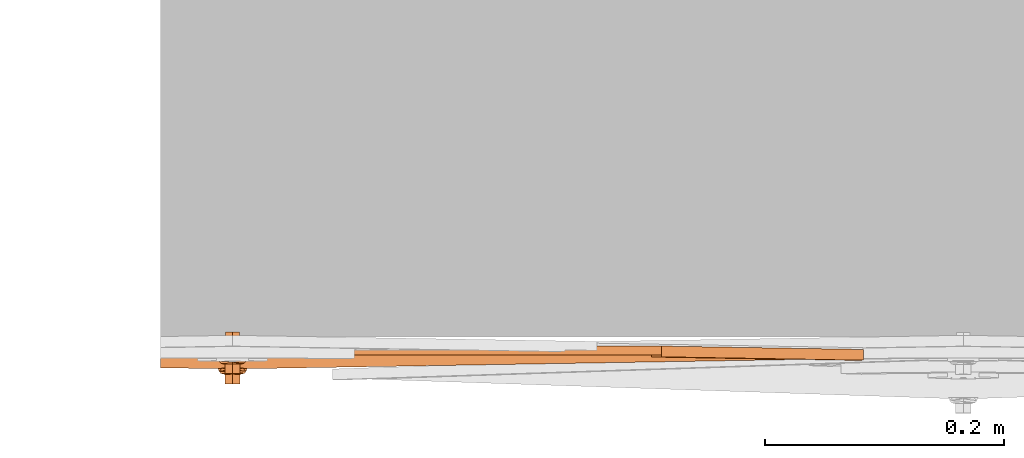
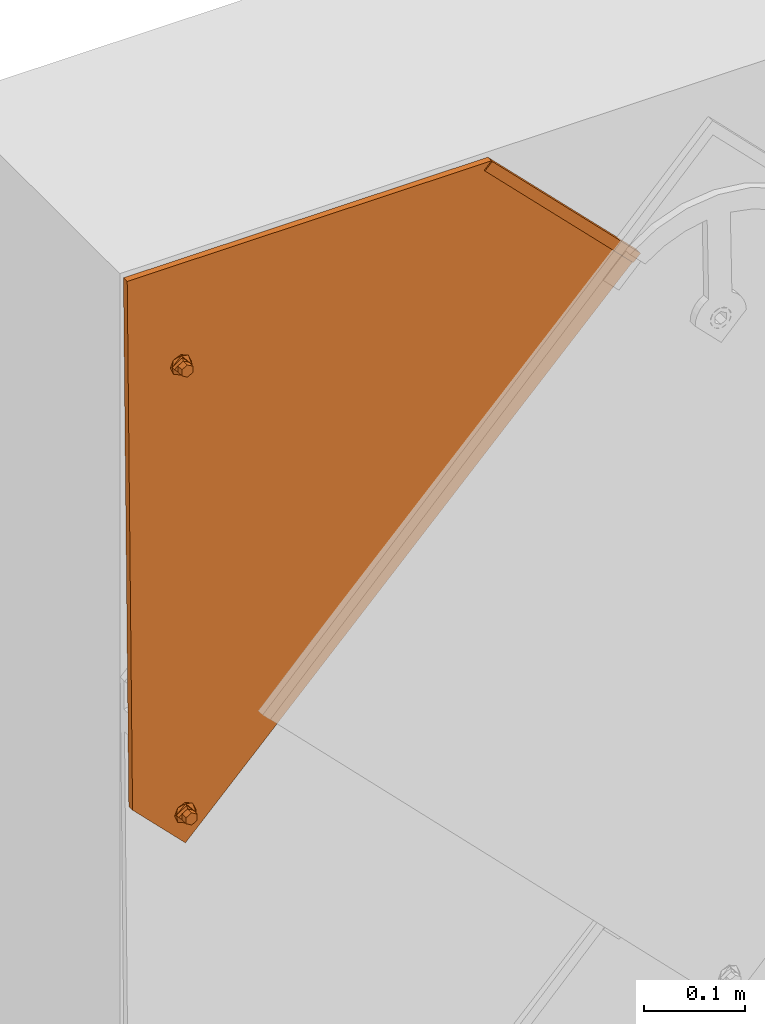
# One storey, part 127 of 133: 1 proxy.
"""IFC2X3 building model written with IfcOpenShell, lengths in millimetres."""

from ifc_helpers import new_model, entity, si_unit, converted_unit, derived_unit, direction, frame, origin, place, context, subcontext, project, spatial, faceted_brep, source, transform, mapped, material, material_list, type_object, type_shapes, element, save


model = new_model("IFC2X3")

# Units and contexts
model_context = context("Model", 3, precision=0.01, world=origin(), true_north=direction((6.12303176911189e-17, 1.0)))
body_context = subcontext(model_context, "Body", "Model", "MODEL_VIEW")
ifc_project = project(units=[si_unit("LENGTHUNIT", "METRE", prefix="MILLI"), si_unit("AREAUNIT", "SQUARE_METRE"), si_unit("VOLUMEUNIT", "CUBIC_METRE"), converted_unit("PLANEANGLEUNIT", "DEGREE", entity("IfcRatioMeasure", 0.0174532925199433), si_unit("PLANEANGLEUNIT", "RADIAN"), dimensions=[0, 0, 0, 0, 0, 0, 0]), si_unit("MASSUNIT", "GRAM", prefix="KILO"), derived_unit("MASSDENSITYUNIT", [(si_unit("MASSUNIT", "GRAM", prefix="KILO"), 1), (si_unit("LENGTHUNIT", "METRE"), -3)]), si_unit("TIMEUNIT", "SECOND"), si_unit("FREQUENCYUNIT", "HERTZ"), si_unit("THERMODYNAMICTEMPERATUREUNIT", "DEGREE_CELSIUS"), derived_unit("THERMALTRANSMITTANCEUNIT", [(si_unit("MASSUNIT", "GRAM", prefix="KILO"), 1), (si_unit("THERMODYNAMICTEMPERATUREUNIT", "KELVIN"), -1), (si_unit("TIMEUNIT", "SECOND"), -3)]), derived_unit("VOLUMETRICFLOWRATEUNIT", [(si_unit("LENGTHUNIT", "METRE"), 3), (si_unit("TIMEUNIT", "SECOND"), -1)]), si_unit("ELECTRICCURRENTUNIT", "AMPERE"), si_unit("ELECTRICVOLTAGEUNIT", "VOLT"), si_unit("POWERUNIT", "WATT"), si_unit("FORCEUNIT", "NEWTON", prefix="KILO"), si_unit("ILLUMINANCEUNIT", "LUX"), si_unit("LUMINOUSFLUXUNIT", "LUMEN"), si_unit("LUMINOUSINTENSITYUNIT", "CANDELA"), derived_unit("USERDEFINED", [(si_unit("MASSUNIT", "GRAM", prefix="KILO"), -1), (si_unit("LENGTHUNIT", "METRE"), -2), (si_unit("TIMEUNIT", "SECOND"), 3), (si_unit("LUMINOUSFLUXUNIT", "LUMEN"), 1)]), derived_unit("LINEARVELOCITYUNIT", [(si_unit("LENGTHUNIT", "METRE"), 1), (si_unit("TIMEUNIT", "SECOND"), -1)]), si_unit("PRESSUREUNIT", "PASCAL"), derived_unit("USERDEFINED", [(si_unit("LENGTHUNIT", "METRE"), -2), (si_unit("MASSUNIT", "GRAM", prefix="KILO"), 1), (si_unit("TIMEUNIT", "SECOND"), -2)])], contexts=[model_context])

# Site, building, storey
site_placement = place(None, origin())
site = spatial("IfcSite", under=ifc_project, at=site_placement, Name="Default", CompositionType="ELEMENT")
building_placement = place(site_placement, origin())
building = spatial("IfcBuilding", under=site, at=building_placement, CompositionType="ELEMENT")
storey_placement = place(building_placement, origin())
storey = spatial("IfcBuildingStorey", under=building, at=storey_placement, Name="Level 1", CompositionType="ELEMENT", Elevation=0.0)

# Proxy
ifc_material_1 = material(Name="Rubber - Sunstyle - Black")
ifc_material_2 = material(Name="Glass - Sunstyle - Tainted Terracotta")
ifc_material_list_1 = material_list([ifc_material_1, ifc_material_2])
ifc_material_list_2 = material_list([ifc_material_1, ifc_material_2])
building_element_proxy_type = type_object("IfcBuildingElementProxyType", Name="Corner Top Big Left - Terracotta", PredefinedType="NOTDEFINED", material=ifc_material_list_2)
shared_shape = source(origin(), body_context, "Body", "Brep", [
    faceted_brep([(0.0, -33.9825851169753, -4.47296585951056), (-5.7742028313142, -37.3158552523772, -4.41714187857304), (-5.77420283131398, -36.9475461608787, 17.5747274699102), (0.0, -33.6142760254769, 17.5189034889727), (-5.77420283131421, -43.9823955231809, -4.30549391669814), (-5.77420283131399, -43.6140864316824, 17.6863754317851), (0.0, -47.3156656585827, -4.24966993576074), (0.0, -46.9473565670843, 17.7421994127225), (5.77420283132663, -43.9823955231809, -4.30549391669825), (5.77420283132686, -43.6140864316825, 17.686375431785), (5.77420283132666, -37.3158552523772, -4.41714187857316), (5.77420283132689, -36.9475461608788, 17.5747274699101), (-8.60370416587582, -48.8833141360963, 17.774621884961), (0.0, -52.4465854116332, 17.8342978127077), (-12.1674751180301, -40.2808162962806, 17.6305514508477), (-8.60370416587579, -31.6783184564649, 17.4864810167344), (0.0, -28.115047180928, 17.4268050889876), (8.60370416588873, -31.6783184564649, 17.4864810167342), (12.167475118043, -40.2808162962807, 17.6305514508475), (8.60370416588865, -48.8833141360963, 17.7746218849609), (-11.3242446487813, -37.9857391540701, 19.9433933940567), (-9.75647455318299, -40.2098014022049, 21.8708760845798), (0.0, -32.8967261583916, 22.5035764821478), (0.0, -31.6562285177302, 21.9232298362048), (0.0, -29.4986776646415, 20.9138547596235), (0.0, -51.8905414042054, 19.1093557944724), (0.0, -50.9469648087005, 21.273060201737), (0.0, -47.4975891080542, 22.748104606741), (0.0, -28.6280832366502, 18.719767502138), (-6.32324569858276, -43.8473733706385, 22.6869725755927), (-6.32324569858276, -36.5469418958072, 22.5647085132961), (11.3242446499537, -42.4971593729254, 20.0189484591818), (9.84888015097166, -41.2842078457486, 21.7920079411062), (6.32324569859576, -36.5469418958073, 22.564708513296), (6.32324569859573, -43.8473733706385, 22.6869725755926), (-6.32324569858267, -43.7133449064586, 30.6898607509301), (0.0, -47.3635606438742, 30.7509927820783), (0.0, -40.063129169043, 30.6287287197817), (-6.32324569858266, -36.4129134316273, 30.5675966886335), (6.32324569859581, -43.7133449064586, 30.68986075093), (6.32324569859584, -36.4129134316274, 30.5675966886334), (0.0, -32.7626976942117, 30.5064646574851), (0.0, -40.649125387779, -4.36131789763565)], [[[0, 1, 2, 3]], [[1, 4, 5, 2]], [[4, 6, 7, 5]], [[6, 8, 9, 7]], [[8, 10, 11, 9]], [[10, 0, 3, 11]], [[12, 7, 13]], [[7, 12, 5]], [[14, 5, 12]], [[5, 14, 2]], [[15, 2, 14]], [[3, 2, 15]], [[15, 16, 3]], [[16, 17, 3]], [[11, 3, 17]], [[11, 17, 18]], [[9, 11, 18]], [[18, 19, 9]], [[7, 9, 19]], [[19, 13, 7]], [[20, 14, 12]], [[21, 22, 23, 24]], [[24, 20, 21]], [[25, 20, 12]], [[26, 27, 21]], [[15, 14, 20]], [[12, 13, 25]], [[20, 28, 15]], [[28, 20, 24]], [[21, 27, 29]], [[21, 29, 30]], [[26, 21, 20]], [[20, 25, 26]], [[15, 28, 16]], [[21, 30, 22]], [[31, 18, 17]], [[28, 31, 17]], [[32, 27, 26]], [[26, 31, 32]], [[26, 25, 31]], [[25, 19, 31]], [[17, 16, 28]], [[31, 19, 18]], [[24, 31, 28]], [[33, 34, 32]], [[23, 22, 33]], [[24, 32, 31]], [[27, 32, 34]], [[32, 23, 33]], [[19, 25, 13]], [[32, 24, 23]], [[35, 36, 37]], [[37, 38, 35]], [[36, 39, 37]], [[40, 37, 39]], [[37, 40, 41]], [[37, 41, 38]], [[42, 6, 4]], [[4, 1, 42]], [[1, 0, 42]], [[42, 8, 6]], [[0, 10, 42]], [[8, 42, 10]], [[22, 30, 38, 41]], [[30, 29, 35, 38]], [[29, 27, 36, 35]], [[27, 34, 39, 36]], [[34, 33, 40, 39]], [[33, 22, 41, 40]]]),
    faceted_brep([(0.0, -572.517457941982, 4.0063690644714), (-5.77420283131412, -575.850728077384, 4.06219304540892), (-5.77420283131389, -575.482418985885, 26.0540623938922), (0.0, -572.149148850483, 25.9982384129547), (-5.77420283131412, -582.517268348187, 4.17384100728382), (-5.7742028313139, -582.148959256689, 26.1657103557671), (0.0, -585.850538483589, 4.22966498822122), (0.0, -585.482229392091, 26.2215343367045), (5.77420283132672, -582.517268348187, 4.17384100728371), (5.77420283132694, -582.148959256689, 26.165710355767), (5.77420283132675, -575.850728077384, 4.0621930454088), (5.77420283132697, -575.482418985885, 26.0540623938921), (-8.60370416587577, -587.418186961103, 26.253956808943), (0.0, -590.98145823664, 26.3136327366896), (-12.1674751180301, -578.815689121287, 26.1098863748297), (-8.60370416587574, -570.213191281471, 25.9658159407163), (0.0, -566.649920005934, 25.9061400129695), (8.60370416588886, -570.213191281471, 25.9658159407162), (12.1674751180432, -578.815689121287, 26.1098863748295), (8.60370416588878, -587.418186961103, 26.2539568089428), (-11.3242446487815, -576.520611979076, 28.4227283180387), (-9.75647455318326, -578.744674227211, 30.3502110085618), (0.0, -571.431598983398, 30.9829114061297), (0.0, -570.191101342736, 30.4025647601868), (0.0, -568.033550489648, 29.3931896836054), (0.0, -590.425414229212, 27.5886907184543), (0.0, -589.481837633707, 29.752395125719), (0.0, -586.032461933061, 31.227439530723), (0.0, -567.162956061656, 27.1991024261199), (-6.32324569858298, -582.382246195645, 31.1663074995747), (-6.32324569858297, -575.081814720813, 31.0440434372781), (11.3242446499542, -581.032032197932, 28.4982833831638), (9.8488801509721, -579.819080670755, 30.2713428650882), (6.32324569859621, -575.081814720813, 31.044043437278), (6.32324569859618, -582.382246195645, 31.1663074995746), (-6.32324569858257, -582.248217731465, 39.1691956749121), (0.0, -585.898433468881, 39.2303277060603), (0.0, -578.598001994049, 39.1080636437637), (-6.32324569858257, -574.947786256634, 39.0469316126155), (6.32324569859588, -582.248217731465, 39.1691956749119), (6.32324569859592, -574.947786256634, 39.0469316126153), (0.0, -571.297570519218, 38.9857995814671), (0.0, -579.183998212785, 4.1180170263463)], [[[0, 1, 2, 3]], [[1, 4, 5, 2]], [[4, 6, 7, 5]], [[6, 8, 9, 7]], [[8, 10, 11, 9]], [[10, 0, 3, 11]], [[12, 7, 13]], [[7, 12, 5]], [[14, 5, 12]], [[5, 14, 2]], [[15, 2, 14]], [[3, 2, 15]], [[15, 16, 3]], [[16, 17, 3]], [[11, 3, 17]], [[11, 17, 18]], [[9, 11, 18]], [[18, 19, 9]], [[7, 9, 19]], [[19, 13, 7]], [[20, 14, 12]], [[21, 22, 23, 24]], [[24, 20, 21]], [[25, 20, 12]], [[26, 27, 21]], [[15, 14, 20]], [[12, 13, 25]], [[20, 28, 15]], [[28, 20, 24]], [[21, 27, 29]], [[21, 29, 30]], [[26, 21, 20]], [[20, 25, 26]], [[15, 28, 16]], [[21, 30, 22]], [[31, 18, 17]], [[28, 31, 17]], [[32, 27, 26]], [[26, 31, 32]], [[26, 25, 31]], [[25, 19, 31]], [[17, 16, 28]], [[31, 19, 18]], [[24, 31, 28]], [[33, 34, 32]], [[23, 22, 33]], [[24, 32, 31]], [[27, 32, 34]], [[32, 23, 33]], [[19, 25, 13]], [[32, 24, 23]], [[35, 36, 37]], [[37, 38, 35]], [[36, 39, 37]], [[40, 37, 39]], [[37, 40, 41]], [[37, 41, 38]], [[42, 6, 4]], [[4, 1, 42]], [[1, 0, 42]], [[42, 8, 6]], [[0, 10, 42]], [[8, 42, 10]], [[22, 30, 38, 41]], [[30, 29, 35, 38]], [[29, 27, 36, 35]], [[27, 34, 39, 36]], [[34, 33, 40, 39]], [[33, 22, 41, 40]]]),
    faceted_brep([(518.469870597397, -96.888376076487, 17.926263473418), (526.954557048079, -88.4036896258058, 17.7841660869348), (526.954557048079, -88.3785718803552, 19.2839557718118), (518.469870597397, -96.8632583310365, 19.426053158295), (349.749078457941, 71.7851066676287, 15.1014023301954), (358.233764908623, 80.2697931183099, 14.9593049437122), (358.233764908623, 80.2949108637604, 16.4590946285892), (349.749078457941, 71.8102244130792, 16.6011920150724)], [[[0, 1, 2, 3]], [[1, 0, 4, 5]], [[2, 1, 5, 6]], [[3, 2, 6, 7]], [[0, 3, 7, 4]], [[4, 7, 6, 5]]]),
    faceted_brep([(358.233764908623, 80.2697931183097, 14.9593049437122), (6.92820323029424, -35.9783347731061, 16.9061718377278), (7.72740661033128, -37.9075118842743, 16.9384807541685), (5.6568542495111, -34.321712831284, 16.8784275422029), (8.0, -39.9777739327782, 16.9731524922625), (7.72740661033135, -42.0480359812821, 17.0078242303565), (6.92820323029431, -43.9772130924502, 17.0401331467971), (526.954557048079, -88.4036896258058, 17.7841660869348), (-60.1037538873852, 80.269793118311, 14.9593049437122), (4.0, -33.0505421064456, 16.8571385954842), (2.07055236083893, -32.2514507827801, 16.8437558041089), (0.0, -31.9788956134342, 16.8391911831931), (-2.07055236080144, -32.2514507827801, 16.8437558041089), (-4.0, -33.0505421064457, 16.8571385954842), (-5.6568542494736, -34.321712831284, 16.8784275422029), (-6.92820323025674, -35.9783347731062, 16.9061718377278), (-7.72740661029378, -37.9075118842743, 16.9384807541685), (-8.0, -39.9777739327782, 16.9731524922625), (-7.72740661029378, -42.0480359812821, 17.0078242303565), (-60.1037538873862, -555.122942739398, 25.6005522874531), (-6.92820323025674, -43.9772130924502, 17.0401331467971), (-5.6568542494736, -45.6338350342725, 17.067877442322), (-4.0, -46.9050057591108, 17.0891663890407), (-2.07055236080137, -47.7040970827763, 17.102549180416), (0.0, -47.9766522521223, 17.1071138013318), (2.07055236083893, -47.7040970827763, 17.102549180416), (2.00505600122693, -570.990105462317, 25.8662877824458), (-0.0654963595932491, -570.717550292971, 25.8617231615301), (-2.13604872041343, -570.990105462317, 25.8662877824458), (-4.06549635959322, -571.789196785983, 25.8796705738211), (-5.7223506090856, -573.060367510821, 25.9009595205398), (-6.99369958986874, -574.716989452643, 25.9287038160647), (-7.79290296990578, -576.646166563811, 25.9610127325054), (-8.06549635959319, -578.716428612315, 25.9956844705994), (-7.79290296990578, -580.786690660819, 26.0303562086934), (-6.99369958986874, -582.715867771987, 26.062665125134), (0.00032251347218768, -615.210165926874, 26.6068637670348), (7.66191025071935, -580.786690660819, 26.0303562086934), (6.86270687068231, -582.715867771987, 26.062665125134), (5.59135788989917, -584.37248971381, 26.0904094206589), (3.93450364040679, -585.643660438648, 26.1116983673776), (2.005056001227, -586.442751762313, 26.1250811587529), (-0.0654963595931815, -586.715306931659, 26.1296457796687), (-2.13604872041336, -586.442751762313, 26.1250811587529), (-4.06549635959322, -585.643660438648, 26.1116983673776), (-5.7223506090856, -584.37248971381, 26.0904094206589), (3.93450364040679, -571.789196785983, 25.8796705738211), (4.0, -46.9050057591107, 17.0891663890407), (5.59135788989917, -573.060367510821, 25.9009595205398), (5.65685424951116, -45.6338350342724, 17.067877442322), (6.86270687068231, -574.716989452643, 25.9287038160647), (7.66191025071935, -576.646166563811, 25.9610127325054), (7.93450364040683, -578.716428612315, 25.9956844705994), (-60.1037538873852, 80.1442043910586, 7.46035651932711), (-6.92820323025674, -36.1039235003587, 9.40722341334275), (-7.72740661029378, -38.0331006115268, 9.4395323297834), (-5.6568542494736, -34.4473015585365, 9.37947911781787), (-8.0, -40.1033626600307, 9.4742040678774), (-7.72740661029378, -42.1736247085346, 9.5088758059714), (-60.1037538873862, -555.248531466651, 18.101603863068), (-4.0, -33.1761308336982, 9.35819017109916), (-2.07055236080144, -32.3770395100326, 9.34480737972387), (0.0, -32.1044843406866, 9.34024275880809), (2.07055236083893, -32.3770395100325, 9.34480737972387), (4.0, -33.1761308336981, 9.35819017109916), (5.6568542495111, -34.4473015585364, 9.37947911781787), (358.233764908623, 80.1442043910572, 7.46035651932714), (6.92820323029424, -36.1039235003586, 9.40722341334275), (7.72740661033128, -38.0331006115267, 9.4395323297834), (8.0, -40.1033626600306, 9.4742040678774), (7.72740661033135, -42.1736247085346, 9.5088758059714), (6.92820323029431, -44.1028018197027, 9.54118472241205), (526.954557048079, -88.5292783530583, 10.2852176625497), (5.65685424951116, -45.7594237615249, 9.56892901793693), (5.59135788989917, -573.185956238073, 18.4020110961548), (6.86270687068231, -574.842578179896, 18.4297553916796), (7.66191025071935, -576.771755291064, 18.4620643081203), (7.93450364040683, -578.842017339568, 18.4967360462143), (7.66191025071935, -580.912279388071, 18.5314077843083), (0.00032251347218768, -615.335754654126, 19.1079153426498), (-6.99369958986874, -582.84145649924, 18.563716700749), (-5.7223506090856, -584.498078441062, 18.5914609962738), (-4.06549635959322, -585.7692491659, 18.6127499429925), (-2.13604872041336, -586.568340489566, 18.6261327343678), (-0.0654963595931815, -586.840895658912, 18.6306973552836), (2.005056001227, -586.568340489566, 18.6261327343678), (3.93450364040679, -585.7692491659, 18.6127499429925), (5.59135788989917, -584.498078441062, 18.5914609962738), (6.86270687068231, -582.84145649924, 18.563716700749), (4.0, -47.0305944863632, 9.59021796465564), (3.93450364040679, -571.914785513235, 18.3807221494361), (2.07055236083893, -47.8296858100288, 9.60360075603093), (2.00505600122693, -571.115694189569, 18.3673393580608), (-0.0654963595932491, -570.843139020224, 18.362774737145), (-2.13604872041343, -571.11569418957, 18.3673393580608), (-4.06549635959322, -571.914785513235, 18.3807221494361), (-5.7223506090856, -573.185956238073, 18.4020110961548), (-6.99369958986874, -574.842578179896, 18.4297553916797), (-7.79290296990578, -576.771755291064, 18.4620643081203), (-8.06549635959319, -578.842017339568, 18.4967360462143), (-7.79290296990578, -580.912279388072, 18.5314077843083), (0.0, -48.1022409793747, 9.60816537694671), (-6.92820323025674, -44.1028018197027, 9.54118472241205), (-5.6568542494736, -45.7594237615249, 9.56892901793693), (-4.0, -47.0305944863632, 9.59021796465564), (-2.07055236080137, -47.8296858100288, 9.60360075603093)], [[[0, 1, 2]], [[1, 0, 3]], [[0, 2, 4]], [[4, 5, 0]], [[5, 6, 0]], [[7, 0, 6]], [[8, 3, 0]], [[8, 9, 3]], [[8, 10, 9]], [[11, 10, 8]], [[12, 11, 8]], [[13, 12, 8]], [[8, 14, 13]], [[14, 8, 15]], [[15, 8, 16]], [[17, 16, 8]], [[18, 17, 8]], [[18, 8, 19]], [[19, 20, 18]], [[21, 20, 19]], [[22, 21, 19]], [[23, 22, 19]], [[19, 24, 23]], [[19, 25, 24]], [[26, 25, 19]], [[26, 19, 27]], [[28, 27, 19]], [[29, 28, 19]], [[29, 19, 30]], [[19, 31, 30]], [[31, 19, 32]], [[32, 19, 33]], [[34, 33, 19]], [[35, 34, 19]], [[35, 19, 36]], [[7, 37, 36]], [[36, 37, 38]], [[39, 36, 38]], [[39, 40, 36]], [[41, 36, 40]], [[42, 36, 41]], [[42, 43, 36]], [[43, 44, 36]], [[45, 35, 36]], [[45, 36, 44]], [[25, 26, 46]], [[46, 47, 25]], [[48, 47, 46]], [[48, 49, 47]], [[50, 7, 48]], [[48, 7, 49]], [[7, 50, 51]], [[7, 51, 52]], [[52, 37, 7]], [[7, 6, 49]], [[53, 54, 55]], [[54, 53, 56]], [[53, 55, 57]], [[58, 53, 57]], [[53, 58, 59]], [[60, 56, 53]], [[61, 60, 53]], [[53, 62, 61]], [[62, 53, 63]], [[63, 53, 64]], [[53, 65, 64]], [[65, 53, 66]], [[66, 67, 65]], [[67, 66, 68]], [[68, 66, 69]], [[70, 69, 66]], [[71, 70, 66]], [[71, 66, 72]], [[72, 73, 71]], [[73, 72, 74]], [[74, 72, 75]], [[75, 72, 76]], [[77, 76, 72]], [[78, 77, 72]], [[78, 72, 79]], [[59, 80, 79]], [[79, 80, 81]], [[79, 81, 82]], [[82, 83, 79]], [[83, 84, 79]], [[79, 84, 85]], [[79, 85, 86]], [[86, 87, 79]], [[79, 87, 88]], [[79, 88, 78]], [[73, 74, 89]], [[90, 89, 74]], [[90, 91, 89]], [[91, 90, 92]], [[93, 59, 92]], [[92, 59, 91]], [[93, 94, 59]], [[94, 95, 59]], [[95, 96, 59]], [[97, 59, 96]], [[97, 98, 59]], [[98, 99, 59]], [[99, 100, 59]], [[100, 80, 59]], [[59, 101, 91]], [[102, 59, 58]], [[102, 103, 59]], [[103, 104, 59]], [[104, 105, 59]], [[59, 105, 101]], [[36, 19, 59, 79]], [[7, 36, 79, 72]], [[0, 7, 72, 66]], [[33, 99, 98, 32]], [[32, 98, 97, 31]], [[29, 30, 96, 95]], [[96, 30, 31, 97]], [[28, 29, 95, 94]], [[28, 94, 93, 27]], [[27, 93, 92, 26]], [[26, 92, 90, 46]], [[50, 48, 74, 75]], [[74, 48, 46, 90]], [[51, 50, 75, 76]], [[51, 76, 77, 52]], [[52, 77, 78, 37]], [[37, 78, 88, 38]], [[40, 39, 87, 86]], [[87, 39, 38, 88]], [[41, 40, 86, 85]], [[41, 85, 84, 42]], [[42, 84, 83, 43]], [[43, 83, 82, 44]], [[35, 45, 81, 80]], [[81, 45, 44, 82]], [[34, 35, 80, 100]], [[34, 100, 99, 33]], [[17, 57, 55, 16]], [[16, 55, 54, 15]], [[13, 14, 56, 60]], [[56, 14, 15, 54]], [[12, 13, 60, 61]], [[12, 61, 62, 11]], [[11, 62, 63, 10]], [[10, 63, 64, 9]], [[1, 3, 65, 67]], [[65, 3, 9, 64]], [[2, 1, 67, 68]], [[2, 68, 69, 4]], [[4, 69, 70, 5]], [[5, 70, 71, 6]], [[47, 49, 73, 89]], [[73, 49, 6, 71]], [[25, 47, 89, 91]], [[25, 91, 101, 24]], [[24, 101, 105, 23]], [[23, 105, 104, 22]], [[20, 21, 103, 102]], [[103, 21, 22, 104]], [[18, 20, 102, 58]], [[18, 58, 57, 17]], [[19, 8, 53, 59]], [[8, 0, 66, 53]]]),
])
type_shapes(building_element_proxy_type, [shared_shape])
proxy_placement = place(storey_placement, frame((-14307.7909551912, -13191.873651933, 2456.54757673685), z_axis=(0.0, -1.0, 0.0), x_axis=(1.0, 0.0, 0.0)))
element("IfcBuildingElementProxy", 1, at=proxy_placement, inside=storey, type_object=building_element_proxy_type, material=ifc_material_list_1, Name="Roofing_Panels_SunStyle_Tile_Corner-Top-Big-Left:Corner Top Big Left - Terracotta", ObjectType="Roofing_Panels_SunStyle_Tile_Corner-Top-Big-Left:Corner Top Big Left - Terracotta", context=body_context, shape_type="MappedRepresentation", body=[
    mapped(shared_shape, transform((0.0, 0.0, 0.0), scale=1.0)),
])

save(model, "model.ifc")
